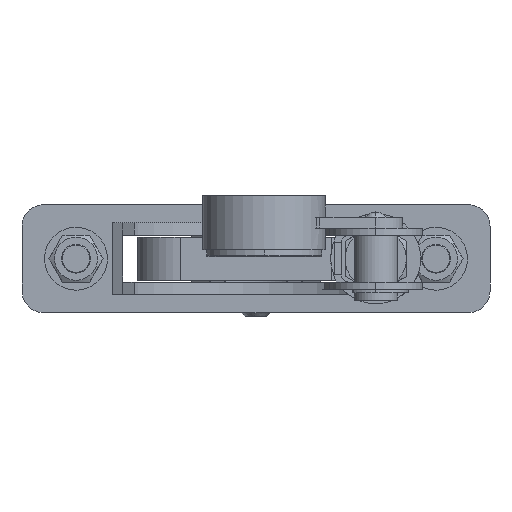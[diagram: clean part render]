
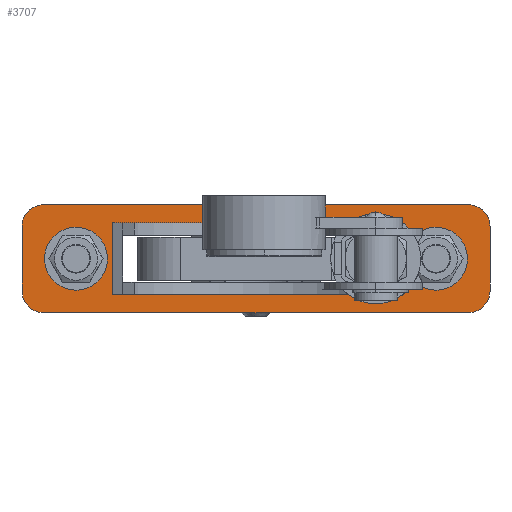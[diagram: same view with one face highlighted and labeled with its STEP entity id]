
A CAD part, front view. The second image highlights one B-rep face of the part: STEP entity #3707.
In plain terms, the highlighted planar face has unit normal (0, -1, 0).
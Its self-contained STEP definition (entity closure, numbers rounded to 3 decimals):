
#3274 = VERTEX_POINT ( 'NONE', #11048 ) ;
#3276 = EDGE_CURVE ( 'NONE', #3277, #3274, #11047, .T. ) ;
#3277 = VERTEX_POINT ( 'NONE', #11043 ) ;
#3344 = VERTEX_POINT ( 'NONE', #11164 ) ;
#3346 = EDGE_CURVE ( 'NONE', #3376, #3344, #11163, .T. ) ;
#3355 = VERTEX_POINT ( 'NONE', #11209 ) ;
#3376 = VERTEX_POINT ( 'NONE', #11239 ) ;
#3378 = EDGE_CURVE ( 'NONE', #3376, #3379, #11238, .T. ) ;
#3379 = VERTEX_POINT ( 'NONE', #11234 ) ;
#3415 = EDGE_CURVE ( 'NONE', #3344, #3355, #11256, .T. ) ;
#3424 = VERTEX_POINT ( 'NONE', #11300 ) ;
#3426 = EDGE_CURVE ( 'NONE', #3355, #3424, #11298, .T. ) ;
#3446 = EDGE_CURVE ( 'NONE', #3467, #3447, #11339, .T. ) ;
#3447 = VERTEX_POINT ( 'NONE', #11330 ) ;
#3466 = EDGE_CURVE ( 'NONE', #3467, #3277, #11362, .T. ) ;
#3467 = VERTEX_POINT ( 'NONE', #11358 ) ;
#3476 = EDGE_CURVE ( 'NONE', #3485, #3477, #11401, .T. ) ;
#3477 = VERTEX_POINT ( 'NONE', #11397 ) ;
#3484 = EDGE_CURVE ( 'NONE', #3424, #3485, #11396, .T. ) ;
#3485 = VERTEX_POINT ( 'NONE', #11392 ) ;
#3540 = EDGE_CURVE ( 'NONE', #3541, #3477, #11479, .T. ) ;
#3541 = VERTEX_POINT ( 'NONE', #11475 ) ;
#3636 = EDGE_CURVE ( 'NONE', #3637, #3638, #11666, .T. ) ;
#3637 = VERTEX_POINT ( 'NONE', #11661 ) ;
#3638 = VERTEX_POINT ( 'NONE', #11660 ) ;
#3639 = ORIENTED_EDGE ( 'NONE', *, *, #3640, .F. ) ;
#3640 = EDGE_CURVE ( 'NONE', #3638, #3637, #11658, .T. ) ;
#3649 = EDGE_CURVE ( 'NONE', #3447, #3274, #11644, .T. ) ;
#3682 = ORIENTED_EDGE ( 'NONE', *, *, #3683, .T. ) ;
#3683 = EDGE_CURVE ( 'NONE', #3541, #3379, #11711, .T. ) ;
#3684 = ORIENTED_EDGE ( 'NONE', *, *, #3378, .F. ) ;
#3685 = ORIENTED_EDGE ( 'NONE', *, *, #3346, .T. ) ;
#3695 = EDGE_LOOP ( 'NONE', ( #3696, #3697, #3698, #3699 ) ) ;
#3696 = ORIENTED_EDGE ( 'NONE', *, *, #3649, .F. ) ;
#3697 = ORIENTED_EDGE ( 'NONE', *, *, #3446, .F. ) ;
#3698 = ORIENTED_EDGE ( 'NONE', *, *, #3466, .T. ) ;
#3699 = ORIENTED_EDGE ( 'NONE', *, *, #3276, .T. ) ;
#3700 = EDGE_LOOP ( 'NONE', ( #3701, #3702, #3703, #3704, #3705, #3682, #3684, #3685 ) ) ;
#3701 = ORIENTED_EDGE ( 'NONE', *, *, #3415, .T. ) ;
#3702 = ORIENTED_EDGE ( 'NONE', *, *, #3426, .T. ) ;
#3703 = ORIENTED_EDGE ( 'NONE', *, *, #3484, .T. ) ;
#3704 = ORIENTED_EDGE ( 'NONE', *, *, #3476, .T. ) ;
#3705 = ORIENTED_EDGE ( 'NONE', *, *, #3540, .F. ) ;
#3707 = ADVANCED_FACE ( 'NONE', ( #11760, #11755, #11754, #11753 ), #11752, .F. ) ;
#3708 = EDGE_LOOP ( 'NONE', ( #3709, #3713 ) ) ;
#3709 = ORIENTED_EDGE ( 'NONE', *, *, #3710, .F. ) ;
#3710 = EDGE_CURVE ( 'NONE', #3711, #3712, #11747, .T. ) ;
#3711 = VERTEX_POINT ( 'NONE', #11742 ) ;
#3712 = VERTEX_POINT ( 'NONE', #11741 ) ;
#3713 = ORIENTED_EDGE ( 'NONE', *, *, #3714, .F. ) ;
#3714 = EDGE_CURVE ( 'NONE', #3712, #3711, #11739, .T. ) ;
#3715 = EDGE_LOOP ( 'NONE', ( #3716, #3639 ) ) ;
#3716 = ORIENTED_EDGE ( 'NONE', *, *, #3636, .F. ) ;
#11043 = CARTESIAN_POINT ( 'NONE',  ( -41.869, -8.904, 14.626 ) ) ;
#11044 = DIRECTION ( 'NONE',  ( 1., 0., 0. ) ) ;
#11045 = VECTOR ( 'NONE', #11044, 1000. ) ;
#11046 = CARTESIAN_POINT ( 'NONE',  ( -41.869, -8.904, 14.626 ) ) ;
#11047 = LINE ( 'NONE', #11046, #11045 ) ;
#11048 = CARTESIAN_POINT ( 'NONE',  ( 38.131, -8.904, 14.626 ) ) ;
#11159 = DIRECTION ( 'NONE',  ( -1., 0., 0. ) ) ;
#11160 = DIRECTION ( 'NONE',  ( 0., -1., 0. ) ) ;
#11161 = CARTESIAN_POINT ( 'NONE',  ( -60.869, -8.904, 13.626 ) ) ;
#11162 = AXIS2_PLACEMENT_3D ( 'NONE', #11161, #11160, #11159 ) ;
#11163 = CIRCLE ( 'NONE', #11162, 6. ) ;
#11164 = CARTESIAN_POINT ( 'NONE',  ( -66.869, -8.904, 13.626 ) ) ;
#11209 = CARTESIAN_POINT ( 'NONE',  ( -66.869, -8.904, -4.374 ) ) ;
#11234 = CARTESIAN_POINT ( 'NONE',  ( 57.131, -8.904, 19.626 ) ) ;
#11235 = DIRECTION ( 'NONE',  ( 1., 0., 0. ) ) ;
#11236 = VECTOR ( 'NONE', #11235, 1000. ) ;
#11237 = CARTESIAN_POINT ( 'NONE',  ( -66.869, -8.904, 19.626 ) ) ;
#11238 = LINE ( 'NONE', #11237, #11236 ) ;
#11239 = CARTESIAN_POINT ( 'NONE',  ( -60.869, -8.904, 19.626 ) ) ;
#11253 = DIRECTION ( 'NONE',  ( 0., 0., -1. ) ) ;
#11254 = VECTOR ( 'NONE', #11253, 1000. ) ;
#11255 = CARTESIAN_POINT ( 'NONE',  ( -66.869, -8.904, 19.626 ) ) ;
#11256 = LINE ( 'NONE', #11255, #11254 ) ;
#11294 = DIRECTION ( 'NONE',  ( -1., 0., 0. ) ) ;
#11295 = DIRECTION ( 'NONE',  ( 0., -1., 0. ) ) ;
#11296 = CARTESIAN_POINT ( 'NONE',  ( -60.869, -8.904, -4.374 ) ) ;
#11297 = AXIS2_PLACEMENT_3D ( 'NONE', #11296, #11295, #11294 ) ;
#11298 = CIRCLE ( 'NONE', #11297, 6. ) ;
#11300 = CARTESIAN_POINT ( 'NONE',  ( -60.869, -8.904, -10.374 ) ) ;
#11330 = CARTESIAN_POINT ( 'NONE',  ( 38.131, -8.904, -5.374 ) ) ;
#11331 = DIRECTION ( 'NONE',  ( 1., 0., 0. ) ) ;
#11332 = VECTOR ( 'NONE', #11331, 1000. ) ;
#11333 = CARTESIAN_POINT ( 'NONE',  ( -41.869, -8.904, -5.374 ) ) ;
#11339 = LINE ( 'NONE', #11333, #11332 ) ;
#11358 = CARTESIAN_POINT ( 'NONE',  ( -41.869, -8.904, -5.374 ) ) ;
#11359 = DIRECTION ( 'NONE',  ( 0., 0., 1. ) ) ;
#11360 = VECTOR ( 'NONE', #11359, 1000. ) ;
#11361 = CARTESIAN_POINT ( 'NONE',  ( -41.869, -8.904, -5.374 ) ) ;
#11362 = LINE ( 'NONE', #11361, #11360 ) ;
#11392 = CARTESIAN_POINT ( 'NONE',  ( 57.131, -8.904, -10.374 ) ) ;
#11393 = DIRECTION ( 'NONE',  ( 1., 0., 0. ) ) ;
#11394 = VECTOR ( 'NONE', #11393, 1000. ) ;
#11395 = CARTESIAN_POINT ( 'NONE',  ( -66.869, -8.904, -10.374 ) ) ;
#11396 = LINE ( 'NONE', #11395, #11394 ) ;
#11397 = CARTESIAN_POINT ( 'NONE',  ( 63.131, -8.904, -4.374 ) ) ;
#11398 = DIRECTION ( 'NONE',  ( -1., 0., 0. ) ) ;
#11399 = DIRECTION ( 'NONE',  ( 0., -1., 0. ) ) ;
#11400 = AXIS2_PLACEMENT_3D ( 'NONE', #11405, #11399, #11398 ) ;
#11401 = CIRCLE ( 'NONE', #11400, 6. ) ;
#11405 = CARTESIAN_POINT ( 'NONE',  ( 57.131, -8.904, -4.374 ) ) ;
#11475 = CARTESIAN_POINT ( 'NONE',  ( 63.131, -8.904, 13.626 ) ) ;
#11476 = DIRECTION ( 'NONE',  ( 0., 0., -1. ) ) ;
#11477 = VECTOR ( 'NONE', #11476, 1000. ) ;
#11478 = CARTESIAN_POINT ( 'NONE',  ( 63.131, -8.904, 19.626 ) ) ;
#11479 = LINE ( 'NONE', #11478, #11477 ) ;
#11641 = DIRECTION ( 'NONE',  ( 0., 0., 1. ) ) ;
#11642 = VECTOR ( 'NONE', #11641, 1000. ) ;
#11643 = CARTESIAN_POINT ( 'NONE',  ( 38.131, -8.904, -5.374 ) ) ;
#11644 = LINE ( 'NONE', #11643, #11642 ) ;
#11654 = DIRECTION ( 'NONE',  ( 0., 0., -1. ) ) ;
#11655 = DIRECTION ( 'NONE',  ( 0., -1., 0. ) ) ;
#11656 = CARTESIAN_POINT ( 'NONE',  ( 48.131, -8.904, 4.626 ) ) ;
#11657 = AXIS2_PLACEMENT_3D ( 'NONE', #11656, #11655, #11654 ) ;
#11658 = CIRCLE ( 'NONE', #11657, 4.5 ) ;
#11660 = CARTESIAN_POINT ( 'NONE',  ( 48.131, -8.904, 9.126 ) ) ;
#11661 = CARTESIAN_POINT ( 'NONE',  ( 48.131, -8.904, 0.126 ) ) ;
#11662 = DIRECTION ( 'NONE',  ( 0., 0., -1. ) ) ;
#11663 = DIRECTION ( 'NONE',  ( 0., -1., 0. ) ) ;
#11664 = CARTESIAN_POINT ( 'NONE',  ( 48.131, -8.904, 4.626 ) ) ;
#11665 = AXIS2_PLACEMENT_3D ( 'NONE', #11664, #11663, #11662 ) ;
#11666 = CIRCLE ( 'NONE', #11665, 4.5 ) ;
#11707 = DIRECTION ( 'NONE',  ( -1., 0., 0. ) ) ;
#11708 = DIRECTION ( 'NONE',  ( 0., -1., 0. ) ) ;
#11709 = CARTESIAN_POINT ( 'NONE',  ( 57.131, -8.904, 13.626 ) ) ;
#11710 = AXIS2_PLACEMENT_3D ( 'NONE', #11709, #11708, #11707 ) ;
#11711 = CIRCLE ( 'NONE', #11710, 6. ) ;
#11735 = DIRECTION ( 'NONE',  ( 0., 0., 1. ) ) ;
#11736 = DIRECTION ( 'NONE',  ( 0., -1., 0. ) ) ;
#11737 = CARTESIAN_POINT ( 'NONE',  ( -51.869, -8.904, 4.626 ) ) ;
#11738 = AXIS2_PLACEMENT_3D ( 'NONE', #11737, #11736, #11735 ) ;
#11739 = CIRCLE ( 'NONE', #11738, 4.5 ) ;
#11741 = CARTESIAN_POINT ( 'NONE',  ( -51.869, -8.904, 0.126 ) ) ;
#11742 = CARTESIAN_POINT ( 'NONE',  ( -51.869, -8.904, 9.126 ) ) ;
#11743 = DIRECTION ( 'NONE',  ( 0., 0., 1. ) ) ;
#11744 = DIRECTION ( 'NONE',  ( 0., -1., 0. ) ) ;
#11745 = CARTESIAN_POINT ( 'NONE',  ( -51.869, -8.904, 4.626 ) ) ;
#11746 = AXIS2_PLACEMENT_3D ( 'NONE', #11745, #11744, #11743 ) ;
#11747 = CIRCLE ( 'NONE', #11746, 4.5 ) ;
#11748 = DIRECTION ( 'NONE',  ( -1., 0., 0. ) ) ;
#11749 = DIRECTION ( 'NONE',  ( 0., 1., 0. ) ) ;
#11750 = CARTESIAN_POINT ( 'NONE',  ( -66.869, -8.904, 19.626 ) ) ;
#11751 = AXIS2_PLACEMENT_3D ( 'NONE', #11750, #11749, #11748 ) ;
#11752 = PLANE ( 'NONE',  #11751 ) ;
#11753 = FACE_OUTER_BOUND ( 'NONE', #3700, .T. ) ;
#11754 = FACE_BOUND ( 'NONE', #3695, .T. ) ;
#11755 = FACE_BOUND ( 'NONE', #3715, .T. ) ;
#11760 = FACE_BOUND ( 'NONE', #3708, .T. ) ;
